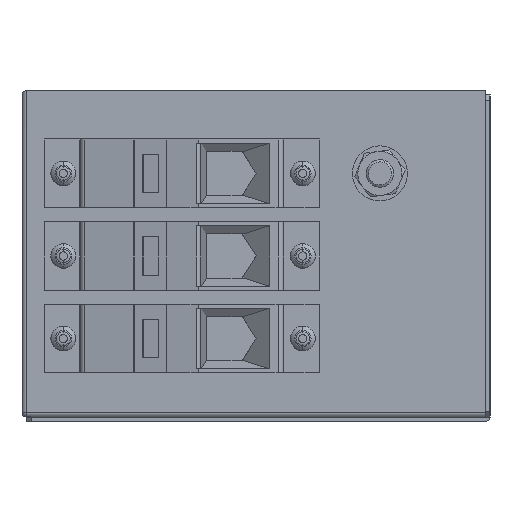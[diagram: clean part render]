
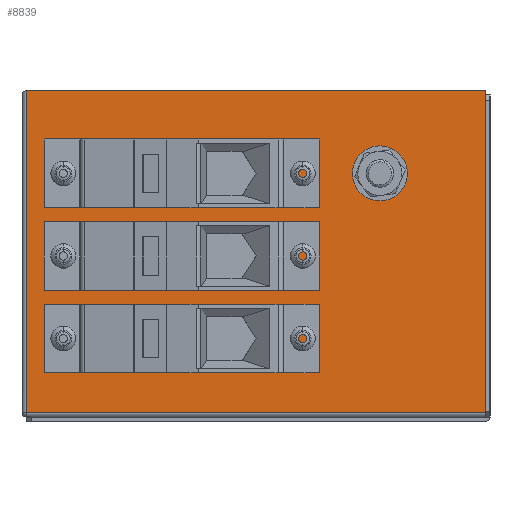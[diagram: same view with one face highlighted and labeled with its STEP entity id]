
A CAD part, left-side view. The second image highlights one B-rep face of the part: STEP entity #8839.
In plain terms, the highlighted planar face has unit normal (-1, 0, 0).
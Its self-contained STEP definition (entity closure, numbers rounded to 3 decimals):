
#326 = EDGE_LOOP ( 'NONE', ( #770, #8051 ) ) ;
#688 = DIRECTION ( 'NONE',  ( 1., 0., 0. ) ) ;
#770 = ORIENTED_EDGE ( 'NONE', *, *, #7199, .T. ) ;
#929 = EDGE_CURVE ( 'NONE', #6981, #3675, #4692, .T. ) ;
#975 = CIRCLE ( 'NONE', #2618, 2.25 ) ;
#987 = ORIENTED_EDGE ( 'NONE', *, *, #8810, .T. ) ;
#1004 = CARTESIAN_POINT ( 'NONE',  ( 25., 155., -90.75 ) ) ;
#1038 = CARTESIAN_POINT ( 'NONE',  ( 25., 155., -28.5 ) ) ;
#1148 = ORIENTED_EDGE ( 'NONE', *, *, #6174, .F. ) ;
#1208 = DIRECTION ( 'NONE',  ( 0., 0., -1. ) ) ;
#1385 = FACE_BOUND ( 'NONE', #1436, .T. ) ;
#1436 = EDGE_LOOP ( 'NONE', ( #10267, #987 ) ) ;
#1523 = CARTESIAN_POINT ( 'NONE',  ( 25., 155., -56.25 ) ) ;
#1529 = VECTOR ( 'NONE', #4567, 1000. ) ;
#1538 = CARTESIAN_POINT ( 'NONE',  ( 25., 155., -30.75 ) ) ;
#1775 = AXIS2_PLACEMENT_3D ( 'NONE', #2343, #8308, #3123 ) ;
#1857 = VERTEX_POINT ( 'NONE', #1523 ) ;
#1968 = CARTESIAN_POINT ( 'NONE',  ( 25., 168.5, 1.5 ) ) ;
#2042 = DIRECTION ( 'NONE',  ( 0., 0., 1. ) ) ;
#2055 = CARTESIAN_POINT ( 'NONE',  ( 25., 155., -58.5 ) ) ;
#2082 = DIRECTION ( 'NONE',  ( 1., 0., 0. ) ) ;
#2211 = FACE_BOUND ( 'NONE', #326, .T. ) ;
#2343 = CARTESIAN_POINT ( 'NONE',  ( 25., 155., -28.5 ) ) ;
#2595 = DIRECTION ( 'NONE',  ( 0., 0., -1. ) ) ;
#2618 = AXIS2_PLACEMENT_3D ( 'NONE', #9557, #4289, #2595 ) ;
#2622 = DIRECTION ( 'NONE',  ( 0., 0., -1. ) ) ;
#2665 = CARTESIAN_POINT ( 'NONE',  ( 25., 170., 1.5 ) ) ;
#2755 = ORIENTED_EDGE ( 'NONE', *, *, #3979, .T. ) ;
#2855 = AXIS2_PLACEMENT_3D ( 'NONE', #4072, #688, #5775 ) ;
#2877 = ORIENTED_EDGE ( 'NONE', *, *, #7302, .T. ) ;
#2902 = DIRECTION ( 'NONE',  ( 0., 0., -1. ) ) ;
#2930 = VERTEX_POINT ( 'NONE', #6939 ) ;
#2935 = CARTESIAN_POINT ( 'NONE',  ( 25., 1.5, 0. ) ) ;
#3032 = VERTEX_POINT ( 'NONE', #7652 ) ;
#3100 = CARTESIAN_POINT ( 'NONE',  ( 25., 168.5, -115.5 ) ) ;
#3123 = DIRECTION ( 'NONE',  ( 0., 0., -1. ) ) ;
#3138 = CIRCLE ( 'NONE', #8579, 5.25 ) ;
#3194 = LINE ( 'NONE', #7462, #8641 ) ;
#3307 = EDGE_CURVE ( 'NONE', #5985, #7158, #10847, .T. ) ;
#3479 = AXIS2_PLACEMENT_3D ( 'NONE', #2055, #7184, #2902 ) ;
#3675 = VERTEX_POINT ( 'NONE', #8711 ) ;
#3694 = FACE_BOUND ( 'NONE', #7254, .T. ) ;
#3912 = EDGE_CURVE ( 'NONE', #7650, #9796, #7586, .T. ) ;
#3979 = EDGE_CURVE ( 'NONE', #5128, #7408, #8406, .T. ) ;
#4072 = CARTESIAN_POINT ( 'NONE',  ( 25., 155., -88.5 ) ) ;
#4289 = DIRECTION ( 'NONE',  ( 1., 0., 0. ) ) ;
#4517 = DIRECTION ( 'NONE',  ( 0., 0., -1. ) ) ;
#4567 = DIRECTION ( 'NONE',  ( 0., 0., -1. ) ) ;
#4692 = LINE ( 'NONE', #9044, #4831 ) ;
#4756 = CARTESIAN_POINT ( 'NONE',  ( 25., 40., -28.5 ) ) ;
#4795 = ORIENTED_EDGE ( 'NONE', *, *, #3307, .T. ) ;
#4831 = VECTOR ( 'NONE', #5581, 1000. ) ;
#4913 = EDGE_LOOP ( 'NONE', ( #1148, #10097, #11014, #6844, #4795 ) ) ;
#5128 = VERTEX_POINT ( 'NONE', #1538 ) ;
#5199 = ORIENTED_EDGE ( 'NONE', *, *, #8731, .T. ) ;
#5263 = DIRECTION ( 'NONE',  ( 0., 0., -1. ) ) ;
#5278 = DIRECTION ( 'NONE',  ( 1., 0., 0. ) ) ;
#5479 = CARTESIAN_POINT ( 'NONE',  ( 25., 155., -86.25 ) ) ;
#5505 = CARTESIAN_POINT ( 'NONE',  ( 25., 1.5, 1.5 ) ) ;
#5581 = DIRECTION ( 'NONE',  ( 0., -1., 0. ) ) ;
#5775 = DIRECTION ( 'NONE',  ( 0., 0., -1. ) ) ;
#5842 = CARTESIAN_POINT ( 'NONE',  ( 25., 40., -33.75 ) ) ;
#5985 = VERTEX_POINT ( 'NONE', #2935 ) ;
#6010 = EDGE_LOOP ( 'NONE', ( #2877, #5199 ) ) ;
#6015 = CIRCLE ( 'NONE', #8565, 2.25 ) ;
#6089 = CARTESIAN_POINT ( 'NONE',  ( 25., 1.5, 1.5 ) ) ;
#6136 = LINE ( 'NONE', #1968, #1529 ) ;
#6174 = EDGE_CURVE ( 'NONE', #2930, #7158, #3194, .T. ) ;
#6207 = CARTESIAN_POINT ( 'NONE',  ( 25., 40., -23.25 ) ) ;
#6334 = AXIS2_PLACEMENT_3D ( 'NONE', #4756, #9893, #1208 ) ;
#6531 = FACE_BOUND ( 'NONE', #6010, .T. ) ;
#6568 = CIRCLE ( 'NONE', #3479, 2.25 ) ;
#6820 = DIRECTION ( 'NONE',  ( 1., 0., 0. ) ) ;
#6844 = ORIENTED_EDGE ( 'NONE', *, *, #10299, .T. ) ;
#6938 = CARTESIAN_POINT ( 'NONE',  ( 25., 40., -28.5 ) ) ;
#6939 = CARTESIAN_POINT ( 'NONE',  ( 25., 168.5, 1.5 ) ) ;
#6974 = PLANE ( 'NONE',  #8357 ) ;
#6981 = VERTEX_POINT ( 'NONE', #3100 ) ;
#7158 = VERTEX_POINT ( 'NONE', #6089 ) ;
#7179 = AXIS2_PLACEMENT_3D ( 'NONE', #10540, #10466, #5263 ) ;
#7184 = DIRECTION ( 'NONE',  ( 1., 0., 0. ) ) ;
#7199 = EDGE_CURVE ( 'NONE', #9791, #10314, #8609, .T. ) ;
#7247 = CARTESIAN_POINT ( 'NONE',  ( 25., 155., -26.25 ) ) ;
#7254 = EDGE_LOOP ( 'NONE', ( #2755, #9652 ) ) ;
#7302 = EDGE_CURVE ( 'NONE', #3032, #1857, #6568, .T. ) ;
#7408 = VERTEX_POINT ( 'NONE', #7247 ) ;
#7462 = CARTESIAN_POINT ( 'NONE',  ( 25., 170., 1.5 ) ) ;
#7586 = CIRCLE ( 'NONE', #6334, 5.25 ) ;
#7650 = VERTEX_POINT ( 'NONE', #5842 ) ;
#7652 = CARTESIAN_POINT ( 'NONE',  ( 25., 155., -60.75 ) ) ;
#7802 = EDGE_CURVE ( 'NONE', #7408, #5128, #6015, .T. ) ;
#8051 = ORIENTED_EDGE ( 'NONE', *, *, #11058, .T. ) ;
#8308 = DIRECTION ( 'NONE',  ( 1., 0., 0. ) ) ;
#8356 = EDGE_CURVE ( 'NONE', #2930, #6981, #6136, .T. ) ;
#8357 = AXIS2_PLACEMENT_3D ( 'NONE', #2665, #6820, #4517 ) ;
#8406 = CIRCLE ( 'NONE', #1775, 2.25 ) ;
#8537 = VECTOR ( 'NONE', #2042, 1000. ) ;
#8565 = AXIS2_PLACEMENT_3D ( 'NONE', #1038, #2082, #10682 ) ;
#8579 = AXIS2_PLACEMENT_3D ( 'NONE', #6938, #5278, #2622 ) ;
#8609 = CIRCLE ( 'NONE', #7179, 2.25 ) ;
#8641 = VECTOR ( 'NONE', #9101, 1000. ) ;
#8711 = CARTESIAN_POINT ( 'NONE',  ( 25., 1.5, -115.5 ) ) ;
#8731 = EDGE_CURVE ( 'NONE', #1857, #3032, #975, .T. ) ;
#8810 = EDGE_CURVE ( 'NONE', #9796, #7650, #3138, .T. ) ;
#8839 = ADVANCED_FACE ( 'NONE', ( #1385, #3694, #2211, #6531, #9526 ), #6974, .F. ) ;
#8938 = CARTESIAN_POINT ( 'NONE',  ( 25., 1.5, 1.5 ) ) ;
#9044 = CARTESIAN_POINT ( 'NONE',  ( 25., 170., -115.5 ) ) ;
#9101 = DIRECTION ( 'NONE',  ( 0., -1., 0. ) ) ;
#9526 = FACE_OUTER_BOUND ( 'NONE', #4913, .T. ) ;
#9557 = CARTESIAN_POINT ( 'NONE',  ( 25., 155., -58.5 ) ) ;
#9652 = ORIENTED_EDGE ( 'NONE', *, *, #7802, .T. ) ;
#9791 = VERTEX_POINT ( 'NONE', #1004 ) ;
#9796 = VERTEX_POINT ( 'NONE', #6207 ) ;
#9813 = DIRECTION ( 'NONE',  ( 0., 0., 1. ) ) ;
#9893 = DIRECTION ( 'NONE',  ( 1., 0., 0. ) ) ;
#10057 = VECTOR ( 'NONE', #9813, 1000. ) ;
#10097 = ORIENTED_EDGE ( 'NONE', *, *, #8356, .T. ) ;
#10267 = ORIENTED_EDGE ( 'NONE', *, *, #3912, .T. ) ;
#10299 = EDGE_CURVE ( 'NONE', #3675, #5985, #10741, .T. ) ;
#10314 = VERTEX_POINT ( 'NONE', #5479 ) ;
#10466 = DIRECTION ( 'NONE',  ( 1., 0., 0. ) ) ;
#10540 = CARTESIAN_POINT ( 'NONE',  ( 25., 155., -88.5 ) ) ;
#10682 = DIRECTION ( 'NONE',  ( 0., 0., -1. ) ) ;
#10741 = LINE ( 'NONE', #8938, #10057 ) ;
#10847 = LINE ( 'NONE', #5505, #8537 ) ;
#11014 = ORIENTED_EDGE ( 'NONE', *, *, #929, .T. ) ;
#11058 = EDGE_CURVE ( 'NONE', #10314, #9791, #11118, .T. ) ;
#11118 = CIRCLE ( 'NONE', #2855, 2.25 ) ;
